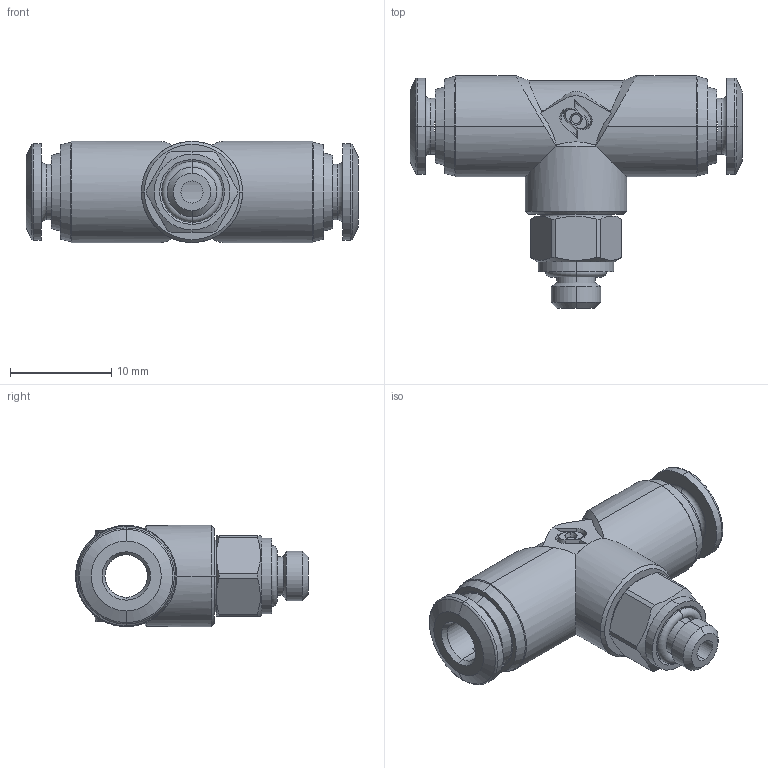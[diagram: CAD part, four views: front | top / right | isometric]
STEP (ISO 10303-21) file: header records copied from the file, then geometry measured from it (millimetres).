
FILE_DESCRIPTION (( 'STEP AP214' ), '1' );
FILE_NAME ('40216V0002A.STEP', '2016-05-19T07:24:35', ( '' ), ( '' ), 'SwSTEP 2.0', 'SolidWorks 2016', '' );
FILE_SCHEMA (( 'AUTOMOTIVE_DESIGN' ));
Length unit declared in the file: millimetre
Products named in the file (1): 40216V0002A
Bounding box: 32.8 x 23 x 10 mm (x, y, z)
Surface area: 2118.4 mm2 (no closed solid volume)
Topology: 0 solids, 9 shells, 172 faces, 483 edges, 323 vertices
Faces by surface type: cone 58, plane 53, cylinder 43, torus 14, bspline 4
Entity records: 8548 total; most frequent: CARTESIAN_POINT 2252, DIRECTION 930, ORIENTED_EDGE 872, EDGE_CURVE 483, AXIS2_PLACEMENT_3D 373, VERTEX_POINT 323, CIRCLE 204, EDGE_LOOP 193
